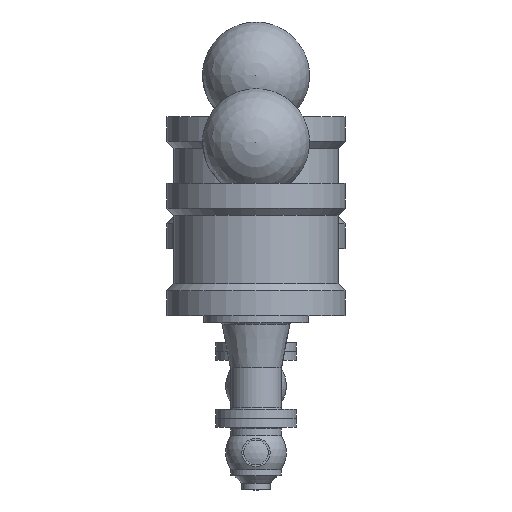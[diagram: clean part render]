
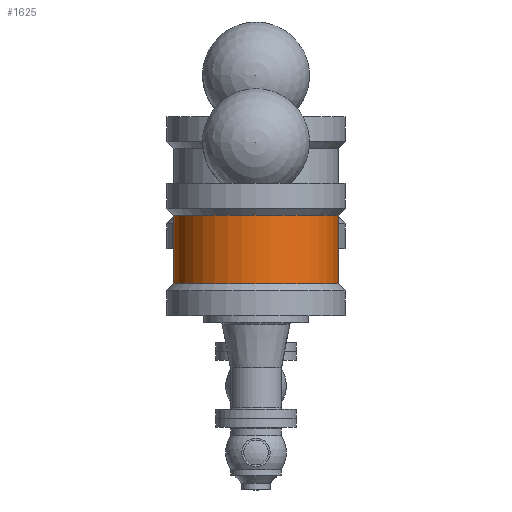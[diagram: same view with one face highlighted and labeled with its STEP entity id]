
A CAD part, front view. The second image highlights one B-rep face of the part: STEP entity #1625.
In plain terms, the highlighted cylindrical face has radius 110.5 mm (diameter 221 mm), a full revolution.
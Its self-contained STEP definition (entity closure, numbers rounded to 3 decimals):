
#291=FACE_OUTER_BOUND('',#402,.T.);
#402=EDGE_LOOP('',(#1354,#1355,#1356,#1357,#1358,#1359));
#481=LINE('',#3072,#524);
#524=VECTOR('',#2483,110.5);
#645=CIRCLE('',#1977,110.5);
#646=CIRCLE('',#1978,110.5);
#647=CIRCLE('',#1980,110.5);
#648=CIRCLE('',#1981,110.5);
#811=VERTEX_POINT('',#3062);
#812=VERTEX_POINT('',#3063);
#813=VERTEX_POINT('',#3068);
#814=VERTEX_POINT('',#3069);
#1005=EDGE_CURVE('',#811,#812,#645,.T.);
#1006=EDGE_CURVE('',#812,#811,#646,.T.);
#1008=EDGE_CURVE('',#813,#814,#647,.T.);
#1009=EDGE_CURVE('',#814,#813,#648,.T.);
#1010=EDGE_CURVE('',#814,#812,#481,.T.);
#1354=ORIENTED_EDGE('',*,*,#1008,.F.);
#1355=ORIENTED_EDGE('',*,*,#1009,.F.);
#1356=ORIENTED_EDGE('',*,*,#1010,.T.);
#1357=ORIENTED_EDGE('',*,*,#1006,.T.);
#1358=ORIENTED_EDGE('',*,*,#1005,.T.);
#1359=ORIENTED_EDGE('',*,*,#1010,.F.);
#1553=CYLINDRICAL_SURFACE('',#1979,110.5);
#1625=ADVANCED_FACE('',(#291),#1553,.T.);
#1977=AXIS2_PLACEMENT_3D('',#3064,#2472,#2473);
#1978=AXIS2_PLACEMENT_3D('',#3065,#2474,#2475);
#1979=AXIS2_PLACEMENT_3D('',#3067,#2477,#2478);
#1980=AXIS2_PLACEMENT_3D('',#3070,#2479,#2480);
#1981=AXIS2_PLACEMENT_3D('',#3071,#2481,#2482);
#2472=DIRECTION('center_axis',(-1.,0.,0.));
#2473=DIRECTION('ref_axis',(0.,0.,1.));
#2474=DIRECTION('center_axis',(-1.,0.,0.));
#2475=DIRECTION('ref_axis',(0.,0.,1.));
#2477=DIRECTION('center_axis',(-1.,0.,0.));
#2478=DIRECTION('ref_axis',(0.,0.,1.));
#2479=DIRECTION('center_axis',(-1.,0.,0.));
#2480=DIRECTION('ref_axis',(0.,0.,1.));
#2481=DIRECTION('center_axis',(-1.,0.,0.));
#2482=DIRECTION('ref_axis',(0.,0.,1.));
#2483=DIRECTION('',(1.,0.,0.));
#3062=CARTESIAN_POINT('',(-46.,0.,110.5));
#3063=CARTESIAN_POINT('',(-46.,0.,-110.5));
#3064=CARTESIAN_POINT('Origin',(-46.,0.,0.));
#3065=CARTESIAN_POINT('Origin',(-46.,0.,0.));
#3067=CARTESIAN_POINT('Origin',(-92.,0.,0.));
#3068=CARTESIAN_POINT('',(-138.,0.,110.5));
#3069=CARTESIAN_POINT('',(-138.,0.,-110.5));
#3070=CARTESIAN_POINT('Origin',(-138.,0.,0.));
#3071=CARTESIAN_POINT('Origin',(-138.,0.,0.));
#3072=CARTESIAN_POINT('',(-92.,0.,-110.5));
